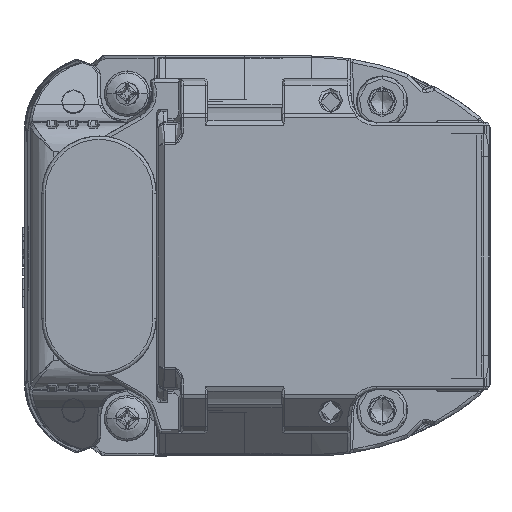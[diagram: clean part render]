
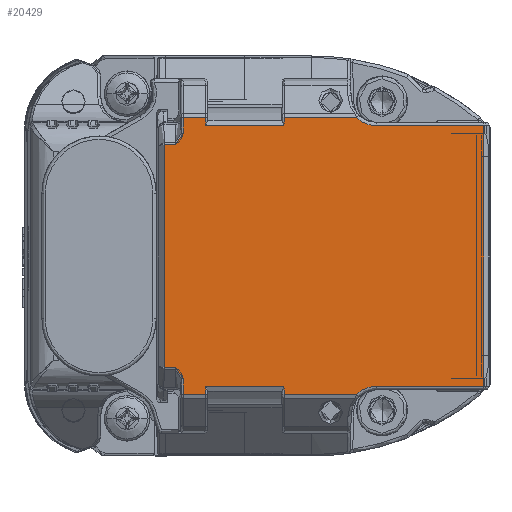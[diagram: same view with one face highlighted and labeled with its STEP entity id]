
A CAD part, front view. The second image highlights one B-rep face of the part: STEP entity #20429.
In plain terms, the highlighted planar face has unit normal (0, -1, 0).
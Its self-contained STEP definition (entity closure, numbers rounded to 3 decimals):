
#9433=DIRECTION('',(-1.,0.,0.));
#9434=VECTOR('',#9433,9.4);
#9435=CARTESIAN_POINT('',(40.2,-1728.1,-28.9));
#9436=LINE('',#9435,#9434);
#9471=DIRECTION('',(0.,0.,-1.));
#9472=VECTOR('',#9471,22.8);
#9473=CARTESIAN_POINT('',(40.2,-1728.1,-6.1));
#9474=LINE('',#9473,#9472);
#9478=CARTESIAN_POINT('',(30.8,-1728.1,-31.4));
#9479=DIRECTION('',(0.,-1.,0.));
#9480=DIRECTION('',(0.,0.,1.));
#9481=AXIS2_PLACEMENT_3D('',#9478,#9479,#9480);
#9486=CARTESIAN_POINT('',(13.915,-1728.1,-28.251));
#9487=CARTESIAN_POINT('',(13.915,-1728.1,-27.714));
#9488=CARTESIAN_POINT('',(13.599,-1728.1,-27.267));
#9489=CARTESIAN_POINT('',(13.219,-1728.1,-27.267));
#9494=CARTESIAN_POINT('',(13.219,-1728.1,-7.733));
#9495=CARTESIAN_POINT('',(13.599,-1728.1,-7.733));
#9496=CARTESIAN_POINT('',(13.915,-1728.1,-7.286));
#9497=CARTESIAN_POINT('',(13.915,-1728.1,-6.749));
#9502=CARTESIAN_POINT('',(30.8,-1728.1,-3.6));
#9503=DIRECTION('',(0.,-1.,0.));
#9504=DIRECTION('',(-0.691,0.,-0.723));
#9505=AXIS2_PLACEMENT_3D('',#9502,#9503,#9504);
#9525=DIRECTION('',(-1.,0.,0.));
#9526=VECTOR('',#9525,6.338);
#9527=CARTESIAN_POINT('',(29.072,-1728.1,-29.593));
#9528=LINE('',#9527,#9526);
#9772=DIRECTION('',(-0.017,0.,1.));
#9773=VECTOR('',#9772,0.643);
#9774=CARTESIAN_POINT('',(22.734,-1728.1,-29.593));
#9775=LINE('',#9774,#9773);
#9794=DIRECTION('',(-1.,0.,0.));
#9795=VECTOR('',#9794,6.846);
#9796=CARTESIAN_POINT('',(22.723,-1728.1,-28.95));
#9797=LINE('',#9796,#9795);
#11416=DIRECTION('',(-1.,0.,0.));
#11417=VECTOR('',#11416,0.989);
#11418=CARTESIAN_POINT('',(13.219,-1728.1,-27.267));
#11419=LINE('',#11418,#11417);
#11453=DIRECTION('',(0.,0.,1.));
#11454=VECTOR('',#11453,1.342);
#11455=CARTESIAN_POINT('',(13.915,-1728.1,-29.593));
#11456=LINE('',#11455,#11454);
#11659=DIRECTION('',(-1.,0.,0.));
#11660=VECTOR('',#11659,1.951);
#11661=CARTESIAN_POINT('',(15.866,-1728.1,-29.593));
#11662=LINE('',#11661,#11660);
#11689=DIRECTION('',(-0.017,0.,
-1.));
#11690=VECTOR('',#11689,0.643);
#11691=CARTESIAN_POINT('',(15.877,-1728.1,-28.95));
#11692=LINE('',#11691,#11690);
#11755=DIRECTION('',(0.,0.,1.));
#11756=VECTOR('',#11755,19.534);
#11757=CARTESIAN_POINT('',(12.23,-1728.1,-27.267));
#11758=LINE('',#11757,#11756);
#12757=DIRECTION('',(0.,0.,1.));
#12758=VECTOR('',#12757,1.342);
#12759=CARTESIAN_POINT('',(13.915,-1728.1,-6.749));
#12760=LINE('',#12759,#12758);
#12787=DIRECTION('',(1.,0.,0.));
#12788=VECTOR('',#12787,0.989);
#12789=CARTESIAN_POINT('',(12.23,-1728.1,-7.733));
#12790=LINE('',#12789,#12788);
#12974=DIRECTION('',(1.,0.,0.));
#12975=VECTOR('',#12974,1.951);
#12976=CARTESIAN_POINT('',(13.915,-1728.1,-5.407));
#12977=LINE('',#12976,#12975);
#13093=DIRECTION('',(0.017,0.,-1.));
#13094=VECTOR('',#13093,0.643);
#13095=CARTESIAN_POINT('',(15.866,-1728.1,-5.407));
#13096=LINE('',#13095,#13094);
#13115=DIRECTION('',(1.,0.,0.));
#13116=VECTOR('',#13115,6.846);
#13117=CARTESIAN_POINT('',(15.877,-1728.1,-6.05));
#13118=LINE('',#13117,#13116);
#13336=DIRECTION('',(1.,0.,0.));
#13337=VECTOR('',#13336,6.338);
#13338=CARTESIAN_POINT('',(22.734,-1728.1,-5.407));
#13339=LINE('',#13338,#13337);
#13398=DIRECTION('',(0.017,0.,1.));
#13399=VECTOR('',#13398,0.643);
#13400=CARTESIAN_POINT('',(22.723,-1728.1,-6.05));
#13401=LINE('',#13400,#13399);
#13457=DIRECTION('',(1.,0.,0.));
#13458=VECTOR('',#13457,9.4);
#13459=CARTESIAN_POINT('',(30.8,-1728.1,-6.1));
#13460=LINE('',#13459,#13458);
#15853=CARTESIAN_POINT('',(12.23,-1728.1,-7.733));
#15855=VERTEX_POINT('',#15853);
#16430=CARTESIAN_POINT('',(13.915,-1728.1,-29.593));
#16431=VERTEX_POINT('',#16430);
#16458=CARTESIAN_POINT('',(13.915,-1728.1,-5.407));
#16460=VERTEX_POINT('',#16458);
#16462=CARTESIAN_POINT('',(13.219,-1728.1,-7.733));
#16464=VERTEX_POINT('',#16462);
#16466=CARTESIAN_POINT('',(13.915,-1728.1,-6.749));
#16467=VERTEX_POINT('',#16466);
#16468=CARTESIAN_POINT('',(40.2,-1728.1,-6.1));
#16469=CARTESIAN_POINT('',(40.2,-1728.1,-28.9));
#16470=VERTEX_POINT('',#16468);
#16471=VERTEX_POINT('',#16469);
#16472=CARTESIAN_POINT('',(30.8,-1728.1,-28.9));
#16473=VERTEX_POINT('',#16472);
#16474=CARTESIAN_POINT('',(29.072,-1728.1,-29.593));
#16475=VERTEX_POINT('',#16474);
#16476=CARTESIAN_POINT('',(22.734,-1728.1,-29.593));
#16477=VERTEX_POINT('',#16476);
#16478=CARTESIAN_POINT('',(22.723,-1728.1,-28.95));
#16479=VERTEX_POINT('',#16478);
#16480=CARTESIAN_POINT('',(15.877,-1728.1,-28.95));
#16481=VERTEX_POINT('',#16480);
#16482=CARTESIAN_POINT('',(15.866,-1728.1,-29.593));
#16483=VERTEX_POINT('',#16482);
#16484=CARTESIAN_POINT('',(13.915,-1728.1,-28.251));
#16485=VERTEX_POINT('',#16484);
#16486=VERTEX_POINT('',#9489);
#16487=CARTESIAN_POINT('',(12.23,-1728.1,-27.267));
#16488=VERTEX_POINT('',#16487);
#16489=CARTESIAN_POINT('',(15.866,-1728.1,-5.407));
#16490=VERTEX_POINT('',#16489);
#16491=CARTESIAN_POINT('',(15.877,-1728.1,-6.05));
#16492=VERTEX_POINT('',#16491);
#16493=CARTESIAN_POINT('',(22.723,-1728.1,-6.05));
#16494=VERTEX_POINT('',#16493);
#16495=CARTESIAN_POINT('',(22.734,-1728.1,-5.407));
#16496=VERTEX_POINT('',#16495);
#16497=CARTESIAN_POINT('',(29.072,-1728.1,-5.407));
#16498=VERTEX_POINT('',#16497);
#16499=CARTESIAN_POINT('',(30.8,-1728.1,-6.1));
#16500=VERTEX_POINT('',#16499);
#20381=CARTESIAN_POINT('',(26.215,-1728.1,-17.5));
#20382=DIRECTION('',(0.,1.,0.));
#20383=DIRECTION('',(0.,0.,1.));
#20384=AXIS2_PLACEMENT_3D('',#20381,#20382,#20383);
#20385=PLANE('',#20384);
#20386=ORIENTED_EDGE('',*,*,#20374,.T.);
#20387=ORIENTED_EDGE('',*,*,#20337,.T.);
#20388=ORIENTED_EDGE('',*,*,#20323,.T.);
#20390=ORIENTED_EDGE('',*,*,#20389,.T.);
#20392=ORIENTED_EDGE('',*,*,#20391,.T.);
#20394=ORIENTED_EDGE('',*,*,#20393,.T.);
#20396=ORIENTED_EDGE('',*,*,#20395,.T.);
#20398=ORIENTED_EDGE('',*,*,#20397,.T.);
#20400=ORIENTED_EDGE('',*,*,#20399,.T.);
#20402=ORIENTED_EDGE('',*,*,#20401,.T.);
#20404=ORIENTED_EDGE('',*,*,#20403,.T.);
#20406=ORIENTED_EDGE('',*,*,#20405,.T.);
#20408=ORIENTED_EDGE('',*,*,#20407,.T.);
#20410=ORIENTED_EDGE('',*,*,#20409,.T.);
#20412=ORIENTED_EDGE('',*,*,#20411,.T.);
#20414=ORIENTED_EDGE('',*,*,#20413,.T.);
#20416=ORIENTED_EDGE('',*,*,#20415,.T.);
#20418=ORIENTED_EDGE('',*,*,#20417,.T.);
#20420=ORIENTED_EDGE('',*,*,#20419,.T.);
#20422=ORIENTED_EDGE('',*,*,#20421,.T.);
#20424=ORIENTED_EDGE('',*,*,#20423,.T.);
#20426=ORIENTED_EDGE('',*,*,#20425,.T.);
#20427=EDGE_LOOP('',(#20386,#20387,#20388,#20390,#20392,#20394,#20396,#20398,
#20400,#20402,#20404,#20406,#20408,#20410,#20412,#20414,#20416,#20418,#20420,
#20422,#20424,#20426));
#20428=FACE_OUTER_BOUND('',#20427,.F.);
#20429=ADVANCED_FACE('',(#20428),#20385,.F.);
#9482=CIRCLE('',#9481,2.5);
#9490=B_SPLINE_CURVE_WITH_KNOTS('',3,(#9486,#9487,#9488,#9489),.UNSPECIFIED.,
.F.,.F.,(4,4),(0.,1.),.UNSPECIFIED.);
#9498=B_SPLINE_CURVE_WITH_KNOTS('',3,(#9494,#9495,#9496,#9497),.UNSPECIFIED.,
.F.,.F.,(4,4),(0.,1.),.UNSPECIFIED.);
#9506=CIRCLE('',#9505,2.5);
#20323=EDGE_CURVE('',#16473,#16475,#9482,.T.);
#20337=EDGE_CURVE('',#16471,#16473,#9436,.T.);
#20374=EDGE_CURVE('',#16470,#16471,#9474,.T.);
#20389=EDGE_CURVE('',#16475,#16477,#9528,.T.);
#20391=EDGE_CURVE('',#16477,#16479,#9775,.T.);
#20393=EDGE_CURVE('',#16479,#16481,#9797,.T.);
#20395=EDGE_CURVE('',#16481,#16483,#11692,.T.);
#20397=EDGE_CURVE('',#16483,#16431,#11662,.T.);
#20399=EDGE_CURVE('',#16431,#16485,#11456,.T.);
#20401=EDGE_CURVE('',#16485,#16486,#9490,.T.);
#20403=EDGE_CURVE('',#16486,#16488,#11419,.T.);
#20405=EDGE_CURVE('',#16488,#15855,#11758,.T.);
#20407=EDGE_CURVE('',#15855,#16464,#12790,.T.);
#20409=EDGE_CURVE('',#16464,#16467,#9498,.T.);
#20411=EDGE_CURVE('',#16467,#16460,#12760,.T.);
#20413=EDGE_CURVE('',#16460,#16490,#12977,.T.);
#20415=EDGE_CURVE('',#16490,#16492,#13096,.T.);
#20417=EDGE_CURVE('',#16492,#16494,#13118,.T.);
#20419=EDGE_CURVE('',#16494,#16496,#13401,.T.);
#20421=EDGE_CURVE('',#16496,#16498,#13339,.T.);
#20423=EDGE_CURVE('',#16498,#16500,#9506,.T.);
#20425=EDGE_CURVE('',#16500,#16470,#13460,.T.);
